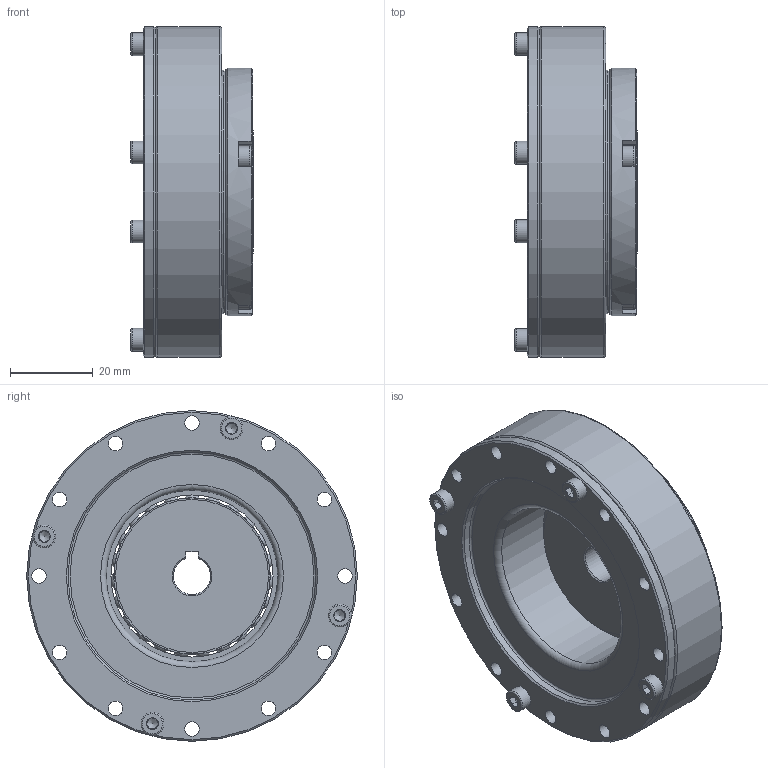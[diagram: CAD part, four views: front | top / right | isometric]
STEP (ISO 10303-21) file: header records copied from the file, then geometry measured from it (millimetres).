
FILE_DESCRIPTION(/* description */ (''),/* implementation_level */ '2;1');
FILE_NAME(/* name */ 'Getriebeset_HTG_Plus_BG43_FK.stp',/* time_stamp */ '2026-03-10T08:44:06+01:00',/* author */ (''),/* organization */ (''),/* preprocessor_version */ 'ST-DEVELOPER v19.4',/* originating_system */ 'SIEMENS PLM Software NX2212.9120',/* authorisation */ '');
FILE_SCHEMA (('AUTOMOTIVE_DESIGN { 1 0 10303 214 3 1 1 1 }'));
Length unit declared in the file: millimetre
Products named in the file (1): Getriebeset_HTG_Plus_BG43_FK
Bounding box: 29.61 x 80 x 80 mm (x, y, z)
Volume: 76987.1 mm3; surface area: 63810.8 mm2
Topology: 44 solids, 44 shells, 591 faces, 1488 edges, 959 vertices
Faces by surface type: plane 176, cylinder 170, cone 140, torus 68, sphere 35, bspline 2
Full cylindrical faces by diameter (mm): 2.6 x24, 3 x8, 3.5 x48, 5.5 x8, 13.5 x1, 25 x1, 28.88 x1, 30 x3, 32.9 x3, 37 x1, 39.2 x2, 41.5 x2, 42.3 x1, 43 x1, 43.8 x1, 45.5 x1, 47 x2, 54.5 x1, 59 x2, 59.8 x2, 60 x2, 61.5 x2, 64 x1, 66.7 x1, 68 x2, 68.1 x1, 80 x2
Entity records: 18085 total; most frequent: CARTESIAN_POINT 5539, DIRECTION 2503, ORIENTED_EDGE 2054, AXIS2_PLACEMENT_3D 1164, EDGE_CURVE 1027, EDGE_LOOP 945, VERTEX_POINT 819, FACE_BOUND 731
